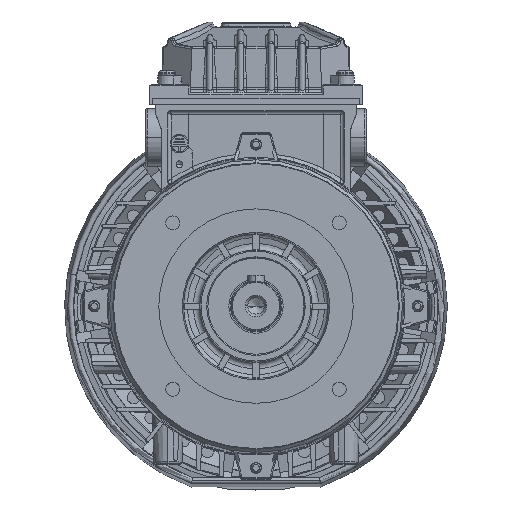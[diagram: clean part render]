
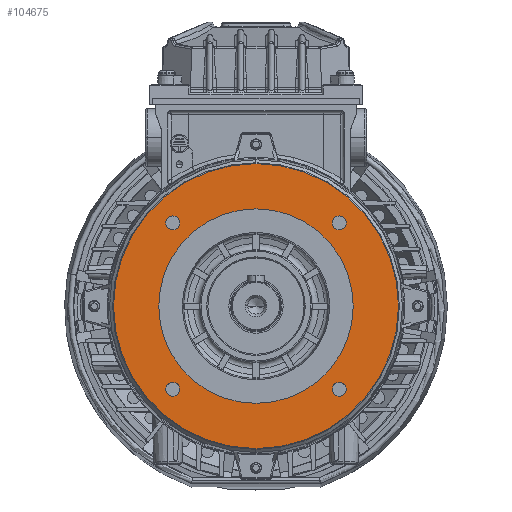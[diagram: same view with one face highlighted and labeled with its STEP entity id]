
A CAD part, top view. The second image highlights one B-rep face of the part: STEP entity #104675.
In plain terms, the highlighted planar face has unit normal (0, 0, 1) as drawn and (0, 1, 0) by its records, which use the part's own axes.
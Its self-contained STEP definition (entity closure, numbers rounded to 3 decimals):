
#294 = CIRCLE ( 'NONE', #75167, 3.4 ) ;
#1040 = CARTESIAN_POINT ( 'NONE',  ( 40.659, 37., 44.059 ) ) ;
#1866 = DIRECTION ( 'NONE',  ( -1., 0., 0. ) ) ;
#3494 = EDGE_CURVE ( 'NONE', #180152, #133231, #127445, .T. ) ;
#4158 = ORIENTED_EDGE ( 'NONE', *, *, #186611, .T. ) ;
#5154 = CARTESIAN_POINT ( 'NONE',  ( -40.659, 37., -37.259 ) ) ;
#14679 = DIRECTION ( 'NONE',  ( 0., 1., 0. ) ) ;
#19568 = CARTESIAN_POINT ( 'NONE',  ( -40.659, 37., 44.059 ) ) ;
#21699 = DIRECTION ( 'NONE',  ( 0., -1., 0. ) ) ;
#22222 = AXIS2_PLACEMENT_3D ( 'NONE', #139367, #95477, #154895 ) ;
#22391 = CARTESIAN_POINT ( 'NONE',  ( 47.5, 37., 0. ) ) ;
#23627 = FACE_BOUND ( 'NONE', #112317, .T. ) ;
#24673 = CARTESIAN_POINT ( 'NONE',  ( 40.659, 37., -40.659 ) ) ;
#24918 = EDGE_LOOP ( 'NONE', ( #4158, #170104 ) ) ;
#25549 = PLANE ( 'NONE',  #49657 ) ;
#26446 = CIRCLE ( 'NONE', #51432, 3.4 ) ;
#29280 = AXIS2_PLACEMENT_3D ( 'NONE', #56744, #14679, #100727 ) ;
#29869 = CARTESIAN_POINT ( 'NONE',  ( -40.659, 37., 40.659 ) ) ;
#30146 = VERTEX_POINT ( 'NONE', #1040 ) ;
#30151 = VERTEX_POINT ( 'NONE', #19568 ) ;
#30664 = CARTESIAN_POINT ( 'NONE',  ( 40.659, 37., 40.659 ) ) ;
#31763 = CARTESIAN_POINT ( 'NONE',  ( -69.6, 37., 0. ) ) ;
#33860 = EDGE_CURVE ( 'NONE', #140701, #69621, #106435, .T. ) ;
#35278 = DIRECTION ( 'NONE',  ( 0., -1., 0. ) ) ;
#37669 = VERTEX_POINT ( 'NONE', #74790 ) ;
#41689 = AXIS2_PLACEMENT_3D ( 'NONE', #29869, #89443, #148866 ) ;
#42247 = DIRECTION ( 'NONE',  ( 0., -1., 0. ) ) ;
#43600 = AXIS2_PLACEMENT_3D ( 'NONE', #149216, #136560, #1866 ) ;
#44293 = EDGE_CURVE ( 'NONE', #66862, #150896, #102867, .T. ) ;
#45271 = ORIENTED_EDGE ( 'NONE', *, *, #123081, .T. ) ;
#46049 = ORIENTED_EDGE ( 'NONE', *, *, #105640, .T. ) ;
#47930 = CIRCLE ( 'NONE', #41689, 3.4 ) ;
#48681 = CARTESIAN_POINT ( 'NONE',  ( 40.659, 37., -44.059 ) ) ;
#48945 = ORIENTED_EDGE ( 'NONE', *, *, #150814, .T. ) ;
#49657 = AXIS2_PLACEMENT_3D ( 'NONE', #144562, #21699, #111549 ) ;
#51432 = AXIS2_PLACEMENT_3D ( 'NONE', #24673, #42247, #158293 ) ;
#51999 = FACE_OUTER_BOUND ( 'NONE', #117477, .T. ) ;
#53876 = FACE_BOUND ( 'NONE', #24918, .T. ) ;
#55785 = EDGE_CURVE ( 'NONE', #30151, #97790, #91833, .T. ) ;
#55805 = DIRECTION ( 'NONE',  ( -1., 0., 0. ) ) ;
#56744 = CARTESIAN_POINT ( 'NONE',  ( 0., 37., 0. ) ) ;
#58291 = AXIS2_PLACEMENT_3D ( 'NONE', #30664, #90218, #120437 ) ;
#58323 = ORIENTED_EDGE ( 'NONE', *, *, #111943, .T. ) ;
#58822 = EDGE_LOOP ( 'NONE', ( #138265, #178426 ) ) ;
#61689 = DIRECTION ( 'NONE',  ( 1., 0., 0. ) ) ;
#63420 = DIRECTION ( 'NONE',  ( 1., 0., 0. ) ) ;
#66862 = VERTEX_POINT ( 'NONE', #31763 ) ;
#67591 = FACE_BOUND ( 'NONE', #153802, .T. ) ;
#69621 = VERTEX_POINT ( 'NONE', #160562 ) ;
#69719 = DIRECTION ( 'NONE',  ( 0., -1., 0. ) ) ;
#74790 = CARTESIAN_POINT ( 'NONE',  ( 40.659, 37., 37.259 ) ) ;
#75167 = AXIS2_PLACEMENT_3D ( 'NONE', #109460, #35278, #139640 ) ;
#76092 = CARTESIAN_POINT ( 'NONE',  ( 0., 37., 0. ) ) ;
#76362 = CARTESIAN_POINT ( 'NONE',  ( -40.659, 37., 40.659 ) ) ;
#80959 = CIRCLE ( 'NONE', #43600, 47.5 ) ;
#84223 = AXIS2_PLACEMENT_3D ( 'NONE', #76092, #122866, #182458 ) ;
#84419 = AXIS2_PLACEMENT_3D ( 'NONE', #128245, #69719, #172164 ) ;
#86910 = CARTESIAN_POINT ( 'NONE',  ( 40.659, 37., -37.259 ) ) ;
#89443 = DIRECTION ( 'NONE',  ( 0., -1., 0. ) ) ;
#89514 = CIRCLE ( 'NONE', #58291, 3.4 ) ;
#90218 = DIRECTION ( 'NONE',  ( 0., -1., 0. ) ) ;
#91647 = ORIENTED_EDGE ( 'NONE', *, *, #3494, .T. ) ;
#91833 = CIRCLE ( 'NONE', #116797, 3.4 ) ;
#92656 = VERTEX_POINT ( 'NONE', #22391 ) ;
#95477 = DIRECTION ( 'NONE',  ( 0., -1., 0. ) ) ;
#97790 = VERTEX_POINT ( 'NONE', #131196 ) ;
#100727 = DIRECTION ( 'NONE',  ( -1., 0., 0. ) ) ;
#102867 = CIRCLE ( 'NONE', #84223, 69.6 ) ;
#104675 = ADVANCED_FACE ( 'NONE', ( #53876, #67591, #128979, #23627, #159177, #51999 ), #25549, .F. ) ;
#105640 = EDGE_CURVE ( 'NONE', #37669, #30146, #89514, .T. ) ;
#105696 = DIRECTION ( 'NONE',  ( 0., -1., 0. ) ) ;
#106082 = CARTESIAN_POINT ( 'NONE',  ( 69.6, 37., 0. ) ) ;
#106435 = CIRCLE ( 'NONE', #22222, 3.4 ) ;
#109460 = CARTESIAN_POINT ( 'NONE',  ( 40.659, 37., 40.659 ) ) ;
#111549 = DIRECTION ( 'NONE',  ( 1., 0., 0. ) ) ;
#111943 = EDGE_CURVE ( 'NONE', #69621, #140701, #168464, .T. ) ;
#112317 = EDGE_LOOP ( 'NONE', ( #58323, #187699 ) ) ;
#116797 = AXIS2_PLACEMENT_3D ( 'NONE', #76362, #105696, #61689 ) ;
#116935 = EDGE_CURVE ( 'NONE', #150896, #66862, #135139, .T. ) ;
#117477 = EDGE_LOOP ( 'NONE', ( #130338, #129511 ) ) ;
#120437 = DIRECTION ( 'NONE',  ( 1., 0., 0. ) ) ;
#121416 = EDGE_CURVE ( 'NONE', #162142, #92656, #80959, .T. ) ;
#122866 = DIRECTION ( 'NONE',  ( 0., 1., 0. ) ) ;
#123081 = EDGE_CURVE ( 'NONE', #30146, #37669, #294, .T. ) ;
#127445 = CIRCLE ( 'NONE', #180531, 3.4 ) ;
#128245 = CARTESIAN_POINT ( 'NONE',  ( -40.659, 37., -40.659 ) ) ;
#128979 = FACE_BOUND ( 'NONE', #134321, .T. ) ;
#129511 = ORIENTED_EDGE ( 'NONE', *, *, #44293, .T. ) ;
#129923 = CARTESIAN_POINT ( 'NONE',  ( 0., 37., 0. ) ) ;
#130338 = ORIENTED_EDGE ( 'NONE', *, *, #116935, .T. ) ;
#131196 = CARTESIAN_POINT ( 'NONE',  ( -40.659, 37., 37.259 ) ) ;
#133231 = VERTEX_POINT ( 'NONE', #86910 ) ;
#133949 = CARTESIAN_POINT ( 'NONE',  ( 40.659, 37., -40.659 ) ) ;
#134321 = EDGE_LOOP ( 'NONE', ( #91647, #48945 ) ) ;
#135139 = CIRCLE ( 'NONE', #29280, 69.6 ) ;
#136560 = DIRECTION ( 'NONE',  ( 0., 1., 0. ) ) ;
#138265 = ORIENTED_EDGE ( 'NONE', *, *, #121416, .F. ) ;
#139367 = CARTESIAN_POINT ( 'NONE',  ( -40.659, 37., -40.659 ) ) ;
#139640 = DIRECTION ( 'NONE',  ( 1., 0., 0. ) ) ;
#140701 = VERTEX_POINT ( 'NONE', #5154 ) ;
#144562 = CARTESIAN_POINT ( 'NONE',  ( 47.5, 37., 0. ) ) ;
#148866 = DIRECTION ( 'NONE',  ( 1., 0., 0. ) ) ;
#149216 = CARTESIAN_POINT ( 'NONE',  ( 0., 37., 0. ) ) ;
#149513 = DIRECTION ( 'NONE',  ( 0., -1., 0. ) ) ;
#150814 = EDGE_CURVE ( 'NONE', #133231, #180152, #26446, .T. ) ;
#150896 = VERTEX_POINT ( 'NONE', #106082 ) ;
#153326 = EDGE_CURVE ( 'NONE', #92656, #162142, #166265, .T. ) ;
#153802 = EDGE_LOOP ( 'NONE', ( #46049, #45271 ) ) ;
#154895 = DIRECTION ( 'NONE',  ( 1., 0., 0. ) ) ;
#158293 = DIRECTION ( 'NONE',  ( 1., 0., 0. ) ) ;
#159177 = FACE_BOUND ( 'NONE', #58822, .T. ) ;
#159967 = AXIS2_PLACEMENT_3D ( 'NONE', #129923, #189524, #55805 ) ;
#160562 = CARTESIAN_POINT ( 'NONE',  ( -40.659, 37., -44.059 ) ) ;
#162142 = VERTEX_POINT ( 'NONE', #176177 ) ;
#166265 = CIRCLE ( 'NONE', #159967, 47.5 ) ;
#168464 = CIRCLE ( 'NONE', #84419, 3.4 ) ;
#170104 = ORIENTED_EDGE ( 'NONE', *, *, #55785, .T. ) ;
#172164 = DIRECTION ( 'NONE',  ( 1., 0., 0. ) ) ;
#176177 = CARTESIAN_POINT ( 'NONE',  ( -47.5, 37., 0. ) ) ;
#178426 = ORIENTED_EDGE ( 'NONE', *, *, #153326, .F. ) ;
#180152 = VERTEX_POINT ( 'NONE', #48681 ) ;
#180531 = AXIS2_PLACEMENT_3D ( 'NONE', #133949, #149513, #63420 ) ;
#182458 = DIRECTION ( 'NONE',  ( -1., 0., 0. ) ) ;
#186611 = EDGE_CURVE ( 'NONE', #97790, #30151, #47930, .T. ) ;
#187699 = ORIENTED_EDGE ( 'NONE', *, *, #33860, .T. ) ;
#189524 = DIRECTION ( 'NONE',  ( 0., 1., 0. ) ) ;
